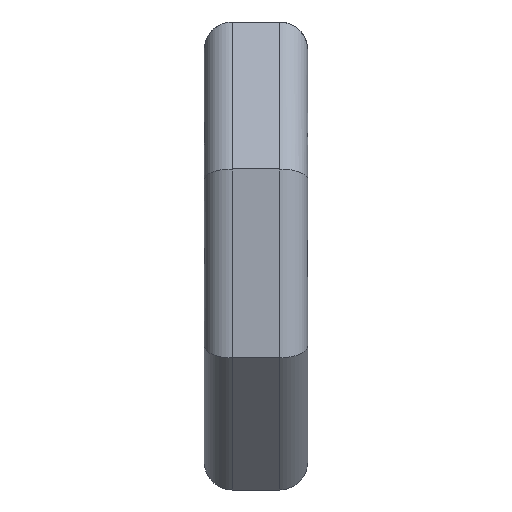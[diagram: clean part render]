
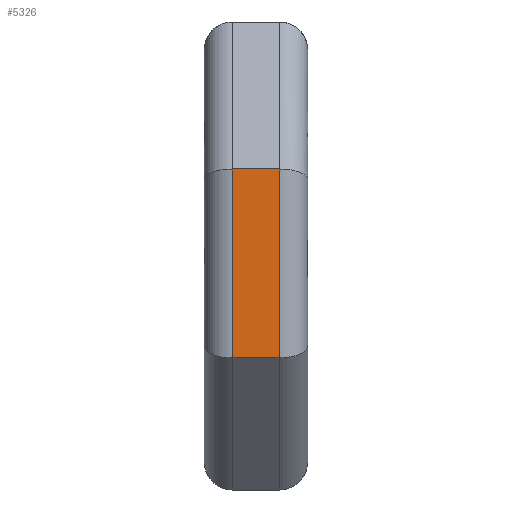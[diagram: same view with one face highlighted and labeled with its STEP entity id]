
A CAD part, left-side view. The second image highlights one B-rep face of the part: STEP entity #5326.
In plain terms, the highlighted planar face has unit normal (-1, 0, -0.026).
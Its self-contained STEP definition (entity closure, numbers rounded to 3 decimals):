
#148 = CYLINDRICAL_SURFACE('',#149,1.524);
#149 = AXIS2_PLACEMENT_3D('',#150,#151,#152);
#150 = CARTESIAN_POINT('',(-10.994,6.985,0.18));
#151 = DIRECTION('',(0.026,0.,-1.));
#152 = DIRECTION('',(-1.,0.,-0.026));
#925 = CYLINDRICAL_SURFACE('',#926,1.524);
#926 = AXIS2_PLACEMENT_3D('',#927,#928,#929);
#927 = CARTESIAN_POINT('',(-10.994,9.525,0.18));
#928 = DIRECTION('',(0.026,0.,-1.));
#929 = DIRECTION('',(-1.,0.,-0.026));
#3409 = VERTEX_POINT('',#3410);
#3410 = CARTESIAN_POINT('',(-12.637,6.985,4.699));
#3423 = PLANE('',#3424);
#3424 = AXIS2_PLACEMENT_3D('',#3425,#3426,#3427);
#3425 = CARTESIAN_POINT('',(-5.234,5.461,12.637));
#3426 = DIRECTION('',(0.731,0.,-0.682));
#3427 = DIRECTION('',(-0.682,0.,-0.731));
#3606 = EDGE_CURVE('',#3607,#3409,#3609,.T.);
#3607 = VERTEX_POINT('',#3608);
#3608 = CARTESIAN_POINT('',(-12.369,6.985,-5.501));
#3609 = SURFACE_CURVE('',#3610,(#3614,#3620),.PCURVE_S1.);
#3610 = LINE('',#3611,#3612);
#3611 = CARTESIAN_POINT('',(-12.081,6.985,-16.532));
#3612 = VECTOR('',#3613,1.);
#3613 = DIRECTION('',(-0.026,0.,1.));
#3614 = PCURVE('',#148,#3615);
#3615 = DEFINITIONAL_REPRESENTATION('',(#3616),#3619);
#3616 = B_SPLINE_CURVE_WITH_KNOTS('',1,(#3617,#3618),.UNSPECIFIED.,.F.,
  .F.,(2,2),(11.035,21.238),.PIECEWISE_BEZIER_KNOTS.);
#3617 = CARTESIAN_POINT('',(6.283,5.643));
#3618 = CARTESIAN_POINT('',(6.283,-4.56));
#3619 = ( GEOMETRIC_REPRESENTATION_CONTEXT(2) 
PARAMETRIC_REPRESENTATION_CONTEXT() REPRESENTATION_CONTEXT('2D SPACE',''
  ) );
#3620 = PCURVE('',#3621,#3626);
#3621 = PLANE('',#3622);
#3622 = AXIS2_PLACEMENT_3D('',#3623,#3624,#3625);
#3623 = CARTESIAN_POINT('',(-12.081,5.461,-16.532));
#3624 = DIRECTION('',(1.,0.,0.026));
#3625 = DIRECTION('',(0.026,0.,-1.));
#3626 = DEFINITIONAL_REPRESENTATION('',(#3627),#3631);
#3627 = LINE('',#3628,#3629);
#3628 = CARTESIAN_POINT('',(0.,1.524));
#3629 = VECTOR('',#3630,1.);
#3630 = DIRECTION('',(-1.,0.));
#3631 = ( GEOMETRIC_REPRESENTATION_CONTEXT(2) 
PARAMETRIC_REPRESENTATION_CONTEXT() REPRESENTATION_CONTEXT('2D SPACE',''
  ) );
#3931 = VERTEX_POINT('',#3932);
#3932 = CARTESIAN_POINT('',(-12.637,9.525,4.699));
#4290 = VERTEX_POINT('',#4291);
#4291 = CARTESIAN_POINT('',(-12.369,9.525,-5.501));
#4357 = EDGE_CURVE('',#3931,#4290,#4358,.T.);
#4358 = SURFACE_CURVE('',#4359,(#4363,#4369),.PCURVE_S1.);
#4359 = LINE('',#4360,#4361);
#4360 = CARTESIAN_POINT('',(-12.369,9.525,-5.501));
#4361 = VECTOR('',#4362,1.);
#4362 = DIRECTION('',(0.026,0.,-1.));
#4363 = PCURVE('',#925,#4364);
#4364 = DEFINITIONAL_REPRESENTATION('',(#4365),#4368);
#4365 = B_SPLINE_CURVE_WITH_KNOTS('',1,(#4366,#4367),.UNSPECIFIED.,.F.,
  .F.,(2,2),(-10.203,0.),
  .PIECEWISE_BEZIER_KNOTS.);
#4366 = CARTESIAN_POINT('',(0.,-4.56));
#4367 = CARTESIAN_POINT('',(0.,5.643));
#4368 = ( GEOMETRIC_REPRESENTATION_CONTEXT(2) 
PARAMETRIC_REPRESENTATION_CONTEXT() REPRESENTATION_CONTEXT('2D SPACE',''
  ) );
#4369 = PCURVE('',#3621,#4370);
#4370 = DEFINITIONAL_REPRESENTATION('',(#4371),#4375);
#4371 = LINE('',#4372,#4373);
#4372 = CARTESIAN_POINT('',(-11.035,4.064));
#4373 = VECTOR('',#4374,1.);
#4374 = DIRECTION('',(1.,0.));
#4375 = ( GEOMETRIC_REPRESENTATION_CONTEXT(2) 
PARAMETRIC_REPRESENTATION_CONTEXT() REPRESENTATION_CONTEXT('2D SPACE',''
  ) );
#4767 = PLANE('',#4768);
#4768 = AXIS2_PLACEMENT_3D('',#4769,#4770,#4771);
#4769 = CARTESIAN_POINT('',(-5.234,11.049,-12.637));
#4770 = DIRECTION('',(0.707,0.,0.707));
#4771 = DIRECTION('',(0.707,0.,-0.707));
#4811 = EDGE_CURVE('',#3607,#4290,#4812,.T.);
#4812 = SURFACE_CURVE('',#4813,(#4817,#4824),.PCURVE_S1.);
#4813 = LINE('',#4814,#4815);
#4814 = CARTESIAN_POINT('',(-12.369,11.049,-5.501));
#4815 = VECTOR('',#4816,1.);
#4816 = DIRECTION('',(0.,1.,0.));
#4817 = PCURVE('',#4767,#4818);
#4818 = DEFINITIONAL_REPRESENTATION('',(#4819),#4823);
#4819 = LINE('',#4820,#4821);
#4820 = CARTESIAN_POINT('',(-10.091,0.));
#4821 = VECTOR('',#4822,1.);
#4822 = DIRECTION('',(0.,1.));
#4823 = ( GEOMETRIC_REPRESENTATION_CONTEXT(2) 
PARAMETRIC_REPRESENTATION_CONTEXT() REPRESENTATION_CONTEXT('2D SPACE',''
  ) );
#4824 = PCURVE('',#3621,#4825);
#4825 = DEFINITIONAL_REPRESENTATION('',(#4826),#4830);
#4826 = LINE('',#4827,#4828);
#4827 = CARTESIAN_POINT('',(-11.035,5.588));
#4828 = VECTOR('',#4829,1.);
#4829 = DIRECTION('',(0.,1.));
#4830 = ( GEOMETRIC_REPRESENTATION_CONTEXT(2) 
PARAMETRIC_REPRESENTATION_CONTEXT() REPRESENTATION_CONTEXT('2D SPACE',''
  ) );
#5326 = ADVANCED_FACE('',(#5327),#3621,.F.);
#5327 = FACE_BOUND('',#5328,.T.);
#5328 = EDGE_LOOP('',(#5329,#5330,#5331,#5352));
#5329 = ORIENTED_EDGE('',*,*,#4811,.F.);
#5330 = ORIENTED_EDGE('',*,*,#3606,.T.);
#5331 = ORIENTED_EDGE('',*,*,#5332,.F.);
#5332 = EDGE_CURVE('',#3931,#3409,#5333,.T.);
#5333 = SURFACE_CURVE('',#5334,(#5338,#5345),.PCURVE_S1.);
#5334 = LINE('',#5335,#5336);
#5335 = CARTESIAN_POINT('',(-12.637,5.461,4.699));
#5336 = VECTOR('',#5337,1.);
#5337 = DIRECTION('',(0.,-1.,0.));
#5338 = PCURVE('',#3621,#5339);
#5339 = DEFINITIONAL_REPRESENTATION('',(#5340),#5344);
#5340 = LINE('',#5341,#5342);
#5341 = CARTESIAN_POINT('',(-21.238,0.));
#5342 = VECTOR('',#5343,1.);
#5343 = DIRECTION('',(0.,-1.));
#5344 = ( GEOMETRIC_REPRESENTATION_CONTEXT(2) 
PARAMETRIC_REPRESENTATION_CONTEXT() REPRESENTATION_CONTEXT('2D SPACE',''
  ) );
#5345 = PCURVE('',#3423,#5346);
#5346 = DEFINITIONAL_REPRESENTATION('',(#5347),#5351);
#5347 = LINE('',#5348,#5349);
#5348 = CARTESIAN_POINT('',(10.854,0.));
#5349 = VECTOR('',#5350,1.);
#5350 = DIRECTION('',(0.,-1.));
#5351 = ( GEOMETRIC_REPRESENTATION_CONTEXT(2) 
PARAMETRIC_REPRESENTATION_CONTEXT() REPRESENTATION_CONTEXT('2D SPACE',''
  ) );
#5352 = ORIENTED_EDGE('',*,*,#4357,.T.);
